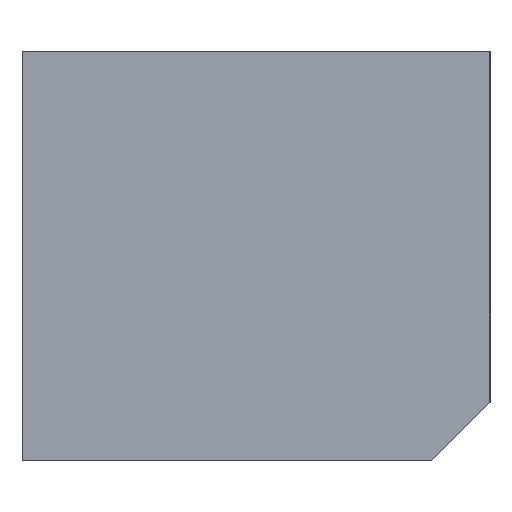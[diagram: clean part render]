
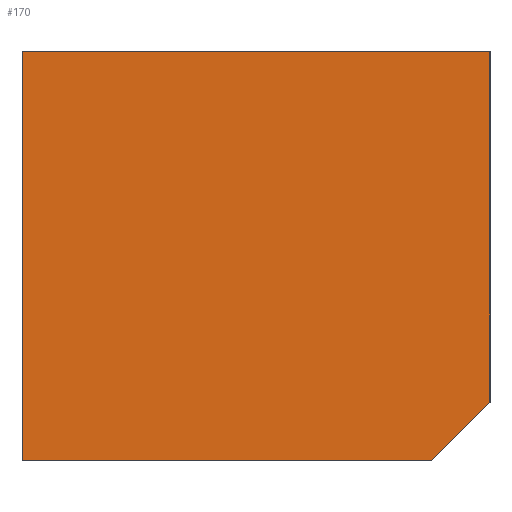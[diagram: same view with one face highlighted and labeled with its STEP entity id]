
A CAD part, left-side view. The second image highlights one B-rep face of the part: STEP entity #170.
In plain terms, the highlighted planar face has unit normal (-1, 0, 0).
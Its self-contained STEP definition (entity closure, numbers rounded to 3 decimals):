
#170=ADVANCED_FACE('',(#331),#333,.T.);
#331=FACE_BOUND('',#332,.T.);
#332=EDGE_LOOP('',(#454,#455,#456,#457,#458));
#333=PLANE('',#334);
#334=AXIS2_PLACEMENT_3D('',#335,#336,#337);
#335=CARTESIAN_POINT('',(-40.,0.,-3.5));
#336=DIRECTION('',(-1.,0.,0.));
#337=DIRECTION('',(0.,0.,1.));
#454=ORIENTED_EDGE('',*,*,#513,.F.);
#455=ORIENTED_EDGE('',*,*,#505,.T.);
#456=ORIENTED_EDGE('',*,*,#474,.T.);
#457=ORIENTED_EDGE('',*,*,#510,.F.);
#458=ORIENTED_EDGE('',*,*,#484,.F.);
#474=EDGE_CURVE('',#516,#521,#523,.T.);
#484=EDGE_CURVE('',#541,#543,#544,.T.);
#505=EDGE_CURVE('',#573,#516,#576,.T.);
#510=EDGE_CURVE('',#543,#521,#583,.T.);
#513=EDGE_CURVE('',#573,#541,#588,.F.);
#516=VERTEX_POINT('',#593);
#521=VERTEX_POINT('',#602);
#523=LINE('',#606,#607);
#541=VERTEX_POINT('',#646);
#543=VERTEX_POINT('',#650);
#544=LINE('',#651,#652);
#573=VERTEX_POINT('',#722);
#576=LINE('',#729,#730);
#583=LINE('',#748,#749);
#588=LINE('',#761,#762);
#593=CARTESIAN_POINT('',(-40.,0.,3.5));
#602=CARTESIAN_POINT('',(-40.,8.,3.5));
#606=CARTESIAN_POINT('',(-40.,0.,3.5));
#607=VECTOR('',#608,1.);
#608=DIRECTION('',(0.,1.,0.));
#646=CARTESIAN_POINT('',(-40.,1.,-3.5));
#650=CARTESIAN_POINT('',(-40.,8.,-3.5));
#651=CARTESIAN_POINT('',(-40.,1.,-3.5));
#652=VECTOR('',#653,1.);
#653=DIRECTION('',(0.,1.,0.));
#722=CARTESIAN_POINT('',(-40.,0.,-2.5));
#729=CARTESIAN_POINT('',(-40.,0.,-2.5));
#730=VECTOR('',#731,1.);
#731=DIRECTION('',(0.,0.,1.));
#748=CARTESIAN_POINT('',(-40.,8.,-3.5));
#749=VECTOR('',#750,1.);
#750=DIRECTION('',(0.,0.,1.));
#761=CARTESIAN_POINT('',(-40.,1.,-3.5));
#762=VECTOR('',#763,1.);
#763=DIRECTION('',(0.,-0.707,0.707));
